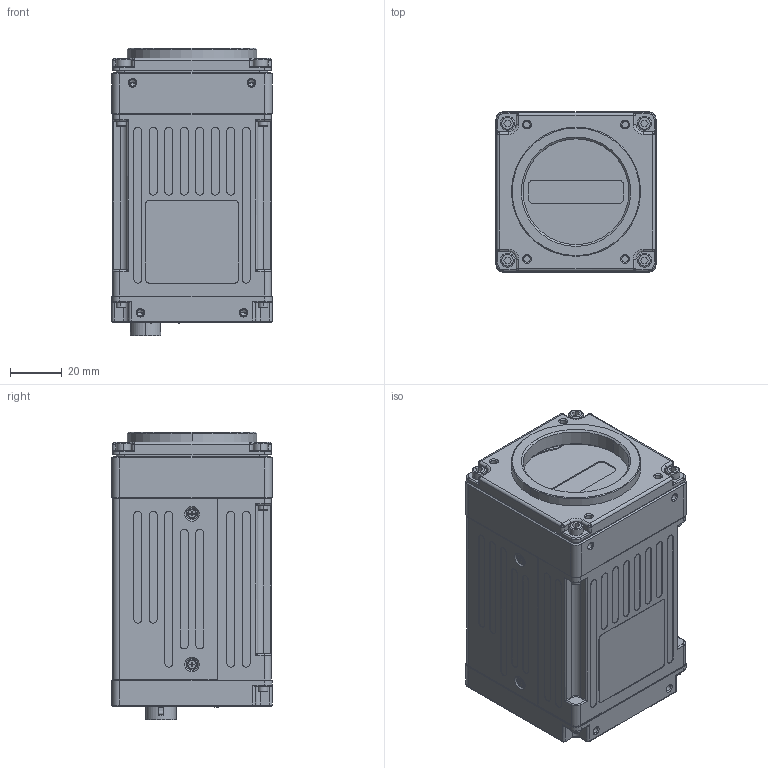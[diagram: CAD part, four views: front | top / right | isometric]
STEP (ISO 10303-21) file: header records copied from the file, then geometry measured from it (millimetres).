
FILE_DESCRIPTION((''),'2;1');
FILE_NAME('SW-4000TL-10GE-M42A_MOCK','2019-01-22T',('aso'),(''),'CREO PARAMETRIC BY PTC INC, 2016260','CREO PARAMETRIC BY PTC INC, 2016260','');
FILE_SCHEMA(('CONFIG_CONTROL_DESIGN'));
Products named in the file (1): SW-4000TL-10GE-M42A_MOCK
Bounding box: 62 x 62 x 111.1 mm (x, y, z)
Surface area: 84941.8 mm2 (no closed solid volume)
Topology: 0 solids, 39 shells, 5230 faces, 14050 edges, 8949 vertices
Faces by surface type: plane 3252, cylinder 1336, cone 249, bspline 159, sphere 126, torus 105, extrusion 3
Entity records: 181410 total; most frequent: CARTESIAN_POINT 50549, ORIENTED_EDGE 27641, DIRECTION 26453, EDGE_CURVE 13856, VECTOR 10109, LINE 10106, VERTEX_POINT 8948, AXIS2_PLACEMENT_3D 8172
